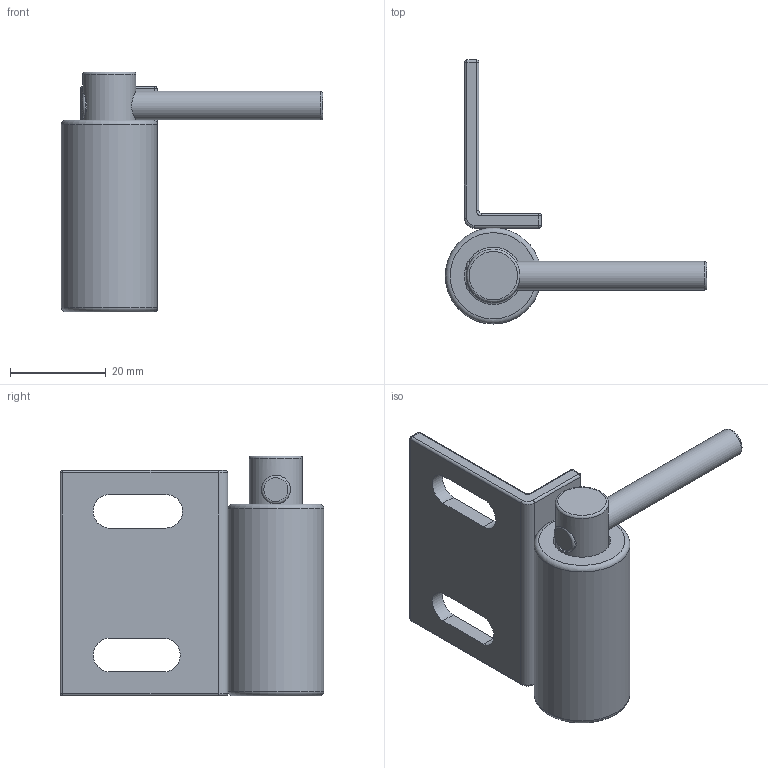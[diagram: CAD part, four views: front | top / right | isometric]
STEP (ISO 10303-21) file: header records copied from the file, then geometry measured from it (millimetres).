
FILE_DESCRIPTION(/* description */ (''),/* implementation_level */ '2;1');
FILE_NAME(/* name */ 'CRI_20X40.stp',/* time_stamp */ '2018-11-12T21:54:52+01:00',/* author */ (''),/* organization */ (''),/* preprocessor_version */ 'ST-DEVELOPER v16',/* originating_system */ 'SIEMENS PLM Software NX 10.0',/* authorisation */ '');
FILE_SCHEMA (('CONFIG_CONTROL_DESIGN'));
Length unit declared in the file: millimetre
Products named in the file (5): PERNO; STAFFA; MANIGLIA; CILINDRO_20X40; CRI_20X40
Assembly tree (4 placements, depth 2):
  CRI_20X40
    CILINDRO_20X40
    MANIGLIA
    STAFFA
    PERNO
Bounding box: 54.5 x 55 x 50 mm (x, y, z)
Volume: 18912.1 mm3; surface area: 12715.5 mm2
Topology: 4 solids, 4 shells, 72 faces, 151 edges, 82 vertices
Faces by surface type: cylinder 30, plane 21, torus 13, sphere 8
Full cylindrical faces by diameter (mm): 6 x2, 8 x1, 11.1 x1, 12 x1, 14.9 x1, 16 x1, 20 x1
Entity records: 2404 total; most frequent: CARTESIAN_POINT 403, DIRECTION 348, ORIENTED_EDGE 250, AXIS2_PLACEMENT_3D 148, EDGE_CURVE 125, EDGE_LOOP 100, VERTEX_POINT 81, ADVANCED_FACE 72
